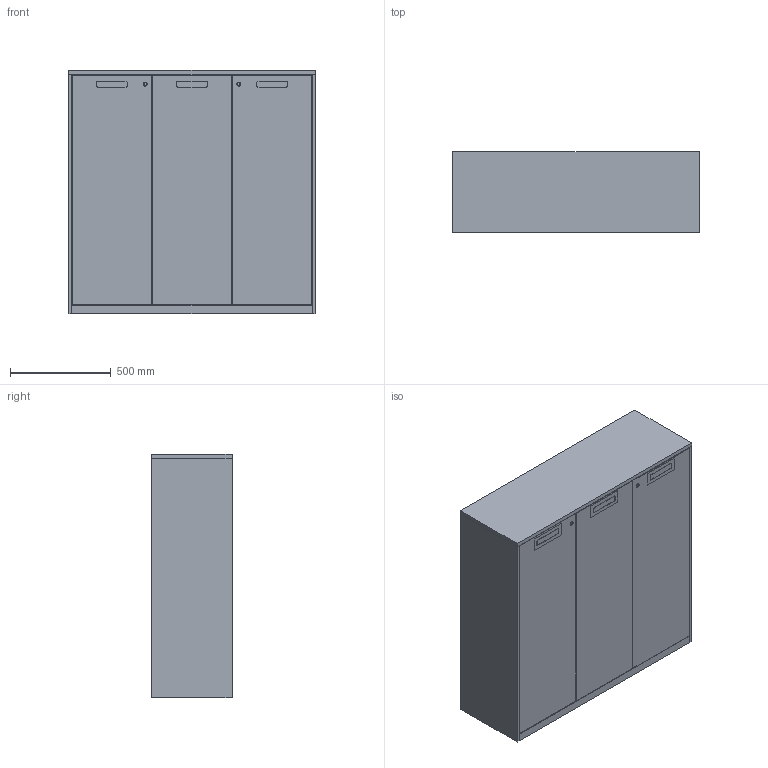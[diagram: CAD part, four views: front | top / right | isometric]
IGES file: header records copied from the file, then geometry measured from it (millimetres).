
Start section: Comment
Global section: file name: SB-H3-3.igs; native system:  By UGS Corp.; preprocessor: XPlus GENERIC/IGES 3.0; author: Author; organization: Title; date: 20170209.122945; units: inch
Bounding box: 1226 x 402 x 1208.01 mm (x, y, z)
Surface area: 7977868.4 mm2 (no closed solid volume)
Topology: 0 solids, 0 shells, 99 faces, 468 edges, 468 vertices
Faces by surface type: bspline 99
